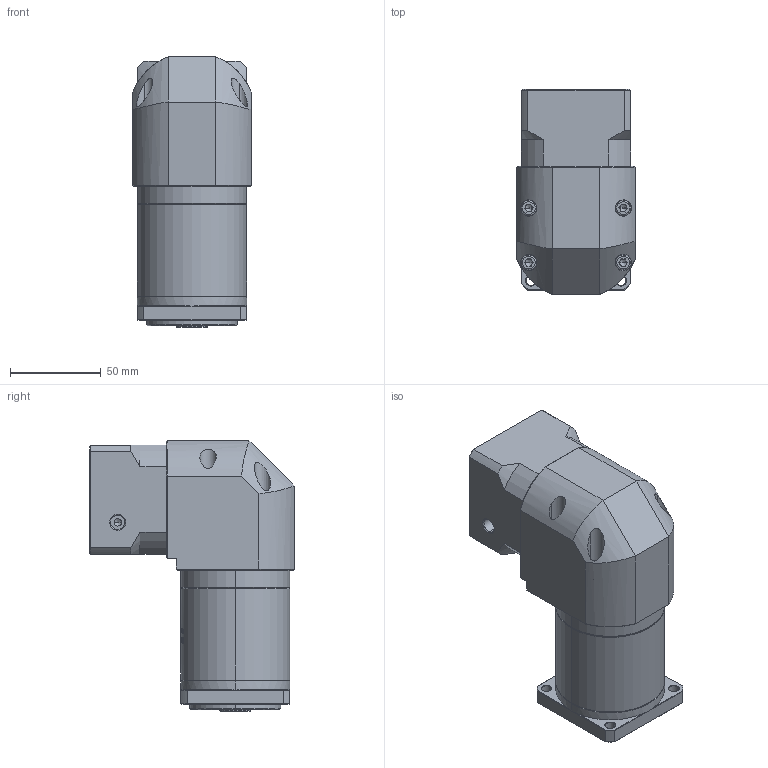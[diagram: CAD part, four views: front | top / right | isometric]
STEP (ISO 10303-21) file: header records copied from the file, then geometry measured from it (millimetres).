
FILE_DESCRIPTION (( 'STEP AP214' ), '1' );
FILE_NAME ('ZFR060-K10-L2-P2-11-50-70-M4.step', '2023-08-17T03:38:01', ( '' ), ( '' ), 'SwSTEP 2.0', 'SolidWorks 2016', '' );
FILE_SCHEMA (( 'AUTOMOTIVE_DESIGN' ));
Length unit declared in the file: millimetre
Products named in the file (1): ZFR060-K10-L2-P2-11-50-70-M4
Bounding box: 65 x 112.7 x 149 mm (x, y, z)
Volume: 580018.3 mm3; surface area: 80482.5 mm2
Topology: 5 solids, 6 shells, 1849 faces, 4962 edges, 3209 vertices
Faces by surface type: plane 840, cylinder 356, bspline 347, cone 282, torus 24
Entity records: 97908 total; most frequent: CARTESIAN_POINT 35132, ORIENTED_EDGE 9884, DIRECTION 7443, EDGE_CURVE 4942, VERTEX_POINT 3209, VECTOR 2535, LINE 2535, AXIS2_PLACEMENT_3D 2454
